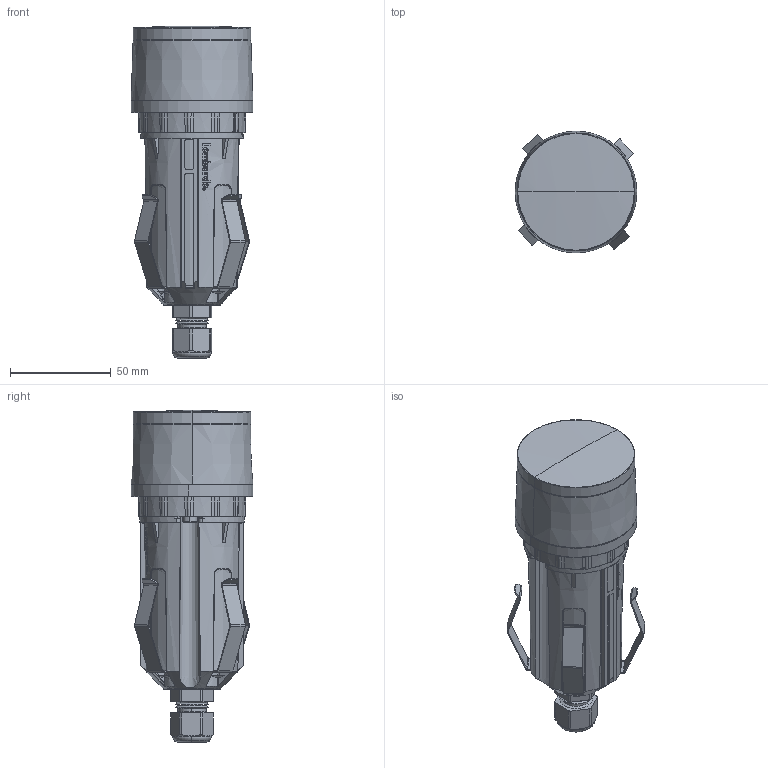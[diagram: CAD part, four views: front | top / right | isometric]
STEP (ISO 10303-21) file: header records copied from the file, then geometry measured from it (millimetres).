
FILE_DESCRIPTION((''),'2;1');
FILE_NAME('STIK-FLAT-H200_SW0002','2025-05-27T08:45:26',('elena.baldelli'),(''),'CREO PARAMETRIC BY PTC INC, 2020354','CREO PARAMETRIC BY PTC INC, 2020354','');
FILE_SCHEMA(('CONFIG_CONTROL_DESIGN'));
Length unit declared in the file: millimetre
Products named in the file (1): STIK-FLAT-H200_SW0002
Bounding box: 60.49 x 60.49 x 164.87 mm (x, y, z)
Surface area: 54712.6 mm2 (no closed solid volume)
Topology: 0 solids, 32 shells, 371 faces, 2068 edges, 1709 vertices
Faces by surface type: cone 122, plane 103, cylinder 62, bspline 44, torus 30, sphere 10
Entity records: 25800 total; most frequent: CARTESIAN_POINT 11857, ORIENTED_EDGE 2728, DIRECTION 2332, EDGE_CURVE 2066, VERTEX_POINT 1709, B_SPLINE_CURVE_WITH_KNOTS 997, AXIS2_PLACEMENT_3D 937, CIRCLE 611
